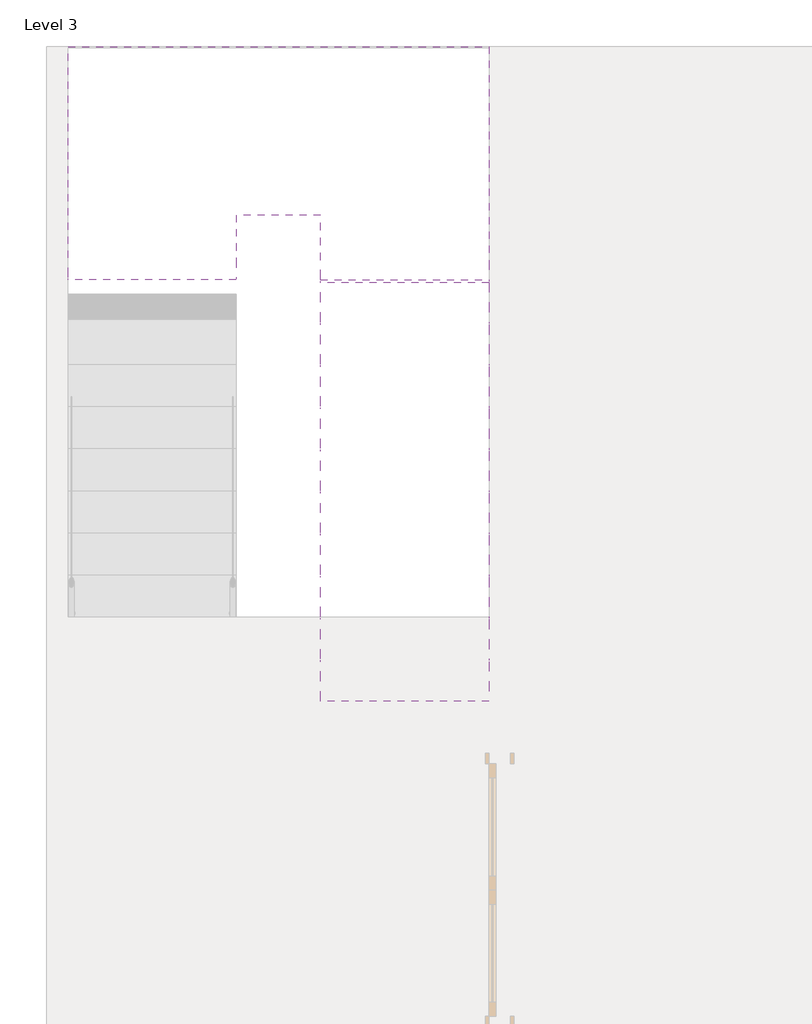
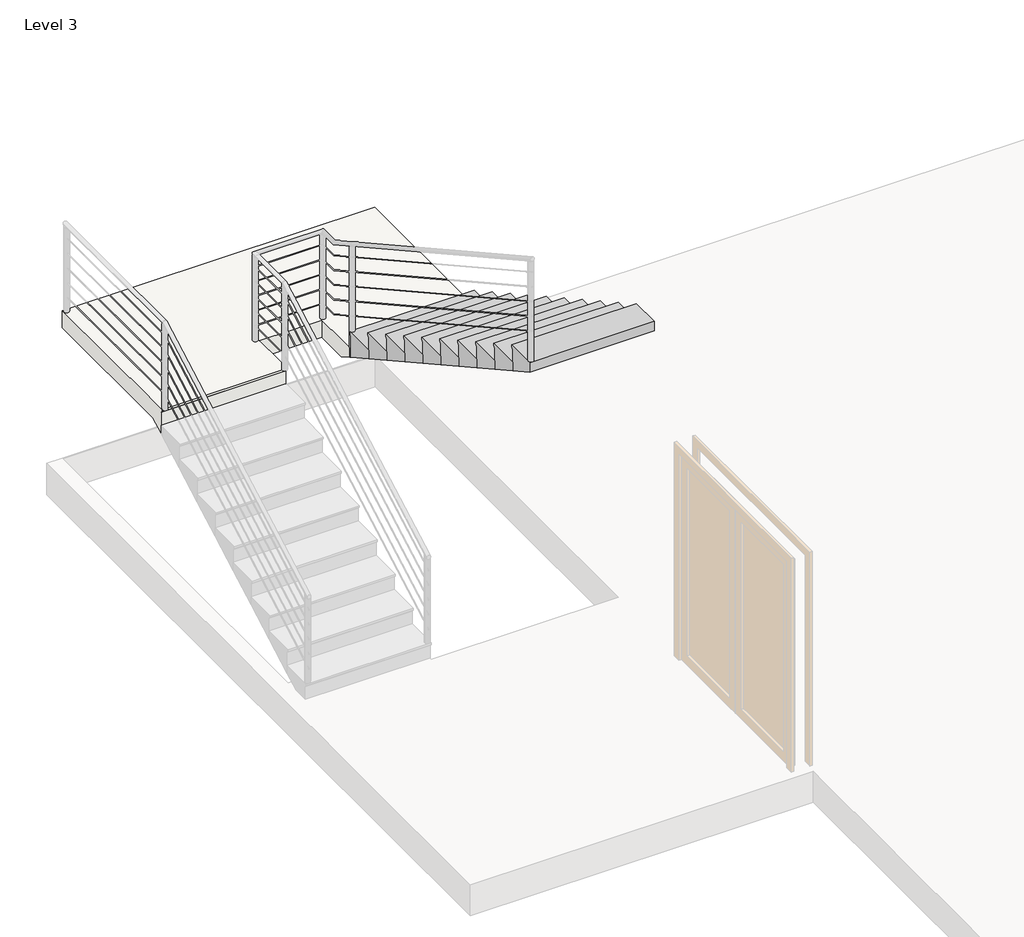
# One storey, part 3 of 3: 1 slab, 1 stair flight.
"""IFC4 building model written with IfcOpenShell, lengths in millimetres."""

from ifc_helpers import new_model, si_unit, origin, place, context, project, spatial, faceted_brep, element, save

model = new_model("IFC4")

# Units and contexts
model_context = context("Model", 3, world=origin())
ifc_project = project(units=[si_unit("LENGTHUNIT", "METRE", prefix="MILLI")], contexts=[model_context])

# Site, building, storey
site = spatial("IfcSite", under=ifc_project)
building = spatial("IfcBuilding", under=site)
storey = spatial("IfcBuildingStorey", under=building, Name="Level 3", Elevation=6096.0)

# Slab
placement = place(None, origin())
element("IfcSlab", 1, ObjectType="7\" Thickness", at=placement, inside=storey, context=model_context, shape_type="Brep", body=[
    faceted_brep([(-20157.717382, 13921.6233604, 7620.0), (-21376.917382, 13921.6233604, 7620.0), (-21376.917382, 13921.6233604, 7600.95), (-20157.717382, 13921.6233604, 7600.95), (-21376.917382, 13940.6733604, 7581.9), (-20157.717382, 13940.6733604, 7581.9), (-20157.717382, 14391.5233604, 7620.0), (-19548.117382, 14391.5233604, 7620.0), (-19548.117382, 14065.7079571, 7620.0), (-19548.117382, 13921.6233604, 7620.0), (-19548.117382, 13902.5733604, 7620.0), (-18328.917382, 13902.5733604, 7620.0), (-18328.917382, 13921.6233604, 7620.0), (-18328.917382, 14065.7079571, 7620.0), (-18328.917382, 15610.7233604, 7620.0), (-21376.917382, 15610.7233604, 7620.0), (-21376.917382, 14082.3387638, 7620.0), (-20157.717382, 14082.3387638, 7620.0), (-21376.917382, 13940.6733604, 7450.6666667), (-21376.917382, 13940.6733604, 7363.4969981), (-20157.717382, 13940.6733604, 7363.4969981), (-20157.717382, 13940.6733604, 7450.6666667), (-20157.717382, 14082.3387638, 7442.2), (-20157.717382, 14391.5233604, 7442.2), (-19548.117382, 13921.6233604, 7522.2469981), (-19548.117382, 13902.5733604, 7532.8303315), (-18328.917382, 13921.6233604, 7522.2469981), (-18328.917382, 14065.7079571, 7442.2), (-18328.917382, 15610.7233604, 7442.2), (-21376.917382, 15610.7233604, 7442.2), (-21376.917382, 14082.3387638, 7442.2), (-19548.117382, 14065.7079571, 7442.2), (-19548.117382, 14391.5233604, 7442.2), (-18328.917382, 13902.5733604, 7532.8303315)], [[[0, 1, 2, 3]], [[4, 5, 3, 2]], [[6, 7, 8, 9, 10, 11, 12, 13, 14, 15, 16, 1, 0, 17]], [[5, 4, 18, 19, 20, 21]], [[0, 3, 5, 21, 20, 22, 23, 6, 17]], [[10, 9, 24, 25]], [[12, 26, 27, 28, 14, 13]], [[15, 14, 28, 29]], [[4, 2, 1, 16, 15, 29, 30, 19, 18]], [[22, 30, 29, 28, 27, 31, 32, 23]], [[30, 22, 20, 19]], [[31, 27, 26, 33, 25, 24]], [[7, 6, 23, 32]], [[7, 32, 31, 24, 9, 8]], [[11, 10, 25, 33]], [[12, 11, 33, 26]]]),
])

# Stair flight
element("IfcStairFlight", 2, ObjectType="3/4\" Nosing", at=placement, inside=storey, context=model_context, shape_type="Brep", body=[
    faceted_brep([(-19548.117382, 13921.6233604, 7789.3333333), (-18328.917382, 13921.6233604, 7789.3333333), (-18328.917382, 13921.6233604, 7770.2833333), (-19548.117382, 13921.6233604, 7770.2833333), (-18328.917382, 13902.5733604, 7751.2333333), (-19548.117382, 13902.5733604, 7751.2333333), (-18328.917382, 13597.7733604, 7789.3333333), (-19548.117382, 13597.7733604, 7789.3333333), (-18328.917382, 13597.7733604, 7702.1636648), (-18328.917382, 13902.5733604, 7532.8303315), (-18328.917382, 13902.5733604, 7620.0), (-19548.117382, 13902.5733604, 7532.8303315), (-19548.117382, 13902.5733604, 7620.0), (-19548.117382, 13597.7733604, 7702.1636648), (-18328.917382, 13292.9733604, 7958.6666667), (-18328.917382, 13616.8233604, 7958.6666667), (-19548.117382, 13616.8233604, 7958.6666667), (-19548.117382, 13292.9733604, 7958.6666667), (-18328.917382, 13292.9733604, 7871.4969981), (-18328.917382, 13597.7733604, 7920.5666667), (-18328.917382, 13616.8233604, 7939.6166667), (-19548.117382, 13597.7733604, 7920.5666667), (-19548.117382, 13616.8233604, 7939.6166667), (-19548.117382, 13292.9733604, 7871.4969981), (-18328.917382, 12988.1733604, 8128.0), (-18328.917382, 13312.0233604, 8128.0), (-19548.117382, 13312.0233604, 8128.0), (-19548.117382, 12988.1733604, 8128.0), (-18328.917382, 12988.1733604, 8040.8303315), (-18328.917382, 13292.9733604, 8089.9), (-18328.917382, 13312.0233604, 8108.95), (-19548.117382, 13292.9733604, 8089.9), (-19548.117382, 13312.0233604, 8108.95), (-19548.117382, 12988.1733604, 8040.8303315), (-18328.917382, 12683.3733604, 8297.3333333), (-18328.917382, 13007.2233604, 8297.3333333), (-19548.117382, 13007.2233604, 8297.3333333), (-19548.117382, 12683.3733604, 8297.3333333), (-18328.917382, 12683.3733604, 8210.1636648), (-18328.917382, 12988.1733604, 8259.2333333), (-18328.917382, 13007.2233604, 8278.2833333), (-19548.117382, 12988.1733604, 8259.2333333), (-19548.117382, 13007.2233604, 8278.2833333), (-19548.117382, 12683.3733604, 8210.1636648), (-18328.917382, 12378.5733604, 8466.6666667), (-18328.917382, 12702.4233604, 8466.6666667), (-19548.117382, 12702.4233604, 8466.6666667), (-19548.117382, 12378.5733604, 8466.6666667), (-18328.917382, 12378.5733604, 8379.4969981), (-18328.917382, 12683.3733604, 8428.5666667), (-18328.917382, 12702.4233604, 8447.6166667), (-19548.117382, 12683.3733604, 8428.5666667), (-19548.117382, 12702.4233604, 8447.6166667), (-19548.117382, 12378.5733604, 8379.4969981), (-18328.917382, 12073.7733604, 8636.0), (-18328.917382, 12397.6233604, 8636.0), (-19548.117382, 12397.6233604, 8636.0), (-19548.117382, 12073.7733604, 8636.0), (-18328.917382, 12073.7733604, 8548.8303315), (-18328.917382, 12378.5733604, 8597.9), (-18328.917382, 12397.6233604, 8616.95), (-19548.117382, 12378.5733604, 8597.9), (-19548.117382, 12397.6233604, 8616.95), (-19548.117382, 12073.7733604, 8548.8303315), (-18328.917382, 11768.9733604, 8805.3333333), (-18328.917382, 12092.8233604, 8805.3333333), (-19548.117382, 12092.8233604, 8805.3333333), (-19548.117382, 11768.9733604, 8805.3333333), (-18328.917382, 11768.9733604, 8718.1636648), (-18328.917382, 12073.7733604, 8767.2333333), (-18328.917382, 12092.8233604, 8786.2833333), (-19548.117382, 12073.7733604, 8767.2333333), (-19548.117382, 12092.8233604, 8786.2833333), (-19548.117382, 11768.9733604, 8718.1636648), (-18328.917382, 11464.1733604, 8887.4969981), (-18328.917382, 11159.3733604, 9056.8303315), (-18328.917382, 10873.6233604, 9215.5803315), (-19548.117382, 10873.6233604, 9215.5803315), (-19548.117382, 11159.3733604, 9056.8303315), (-19548.117382, 11464.1733604, 8887.4969981), (-18328.917382, 11464.1733604, 8974.6666667), (-18328.917382, 11788.0233604, 8974.6666667), (-19548.117382, 11788.0233604, 8974.6666667), (-19548.117382, 11464.1733604, 8974.6666667), (-18328.917382, 11768.9733604, 8936.5666667), (-18328.917382, 11788.0233604, 8955.6166667), (-19548.117382, 11768.9733604, 8936.5666667), (-19548.117382, 11788.0233604, 8955.6166667), (-18328.917382, 11159.3733604, 9144.0), (-18328.917382, 11483.2233604, 9144.0), (-19548.117382, 11483.2233604, 9144.0), (-19548.117382, 11159.3733604, 9144.0), (-18328.917382, 11464.1733604, 9105.9), (-18328.917382, 11483.2233604, 9124.95), (-19548.117382, 11464.1733604, 9105.9), (-19548.117382, 11483.2233604, 9124.95), (-19548.117382, 10873.6233604, 9313.3333333), (-18328.917382, 10873.6233604, 9313.3333333), (-18328.917382, 11178.4233604, 9313.3333333), (-19548.117382, 11178.4233604, 9313.3333333), (-18328.917382, 11159.3733604, 9275.2333333), (-18328.917382, 11178.4233604, 9294.2833333), (-19548.117382, 11159.3733604, 9275.2333333), (-19548.117382, 11178.4233604, 9294.2833333)], [[[0, 1, 2, 3]], [[2, 4, 5, 3]], [[6, 1, 0, 7]], [[1, 6, 8, 9, 10, 4, 2]], [[5, 4, 10, 9, 11, 12]], [[7, 0, 3, 5, 12, 11, 13]], [[14, 15, 16, 17]], [[15, 14, 18, 8, 6, 19, 20]], [[21, 19, 6, 7]], [[17, 16, 22, 21, 7, 13, 23]], [[16, 15, 20, 22]], [[20, 19, 21, 22]], [[24, 25, 26, 27]], [[25, 24, 28, 18, 14, 29, 30]], [[31, 29, 14, 17]], [[27, 26, 32, 31, 17, 23, 33]], [[26, 25, 30, 32]], [[30, 29, 31, 32]], [[34, 35, 36, 37]], [[35, 34, 38, 28, 24, 39, 40]], [[41, 39, 24, 27]], [[37, 36, 42, 41, 27, 33, 43]], [[36, 35, 40, 42]], [[40, 39, 41, 42]], [[44, 45, 46, 47]], [[45, 44, 48, 38, 34, 49, 50]], [[51, 49, 34, 37]], [[47, 46, 52, 51, 37, 43, 53]], [[46, 45, 50, 52]], [[50, 49, 51, 52]], [[54, 55, 56, 57]], [[55, 54, 58, 48, 44, 59, 60]], [[61, 59, 44, 47]], [[57, 56, 62, 61, 47, 53, 63]], [[56, 55, 60, 62]], [[60, 59, 61, 62]], [[64, 65, 66, 67]], [[65, 64, 68, 58, 54, 69, 70]], [[71, 69, 54, 57]], [[67, 66, 72, 71, 57, 63, 73]], [[66, 65, 70, 72]], [[70, 69, 71, 72]], [[9, 8, 18, 28, 38, 48, 58, 68, 74, 75, 76, 77, 78, 79, 73, 63, 53, 43, 33, 23, 13, 11]], [[80, 81, 82, 83]], [[81, 80, 74, 68, 64, 84, 85]], [[86, 84, 64, 67]], [[83, 82, 87, 86, 67, 73, 79]], [[82, 81, 85, 87]], [[85, 84, 86, 87]], [[88, 89, 90, 91]], [[89, 88, 75, 74, 80, 92, 93]], [[94, 92, 80, 83]], [[91, 90, 95, 94, 83, 79, 78]], [[90, 89, 93, 95]], [[93, 92, 94, 95]], [[96, 97, 98, 99]], [[98, 97, 76, 75, 88, 100, 101]], [[102, 100, 88, 91]], [[96, 99, 103, 102, 91, 78, 77]], [[97, 96, 77, 76]], [[99, 98, 101, 103]], [[101, 100, 102, 103]]]),
])

save(model, "model.ifc")
